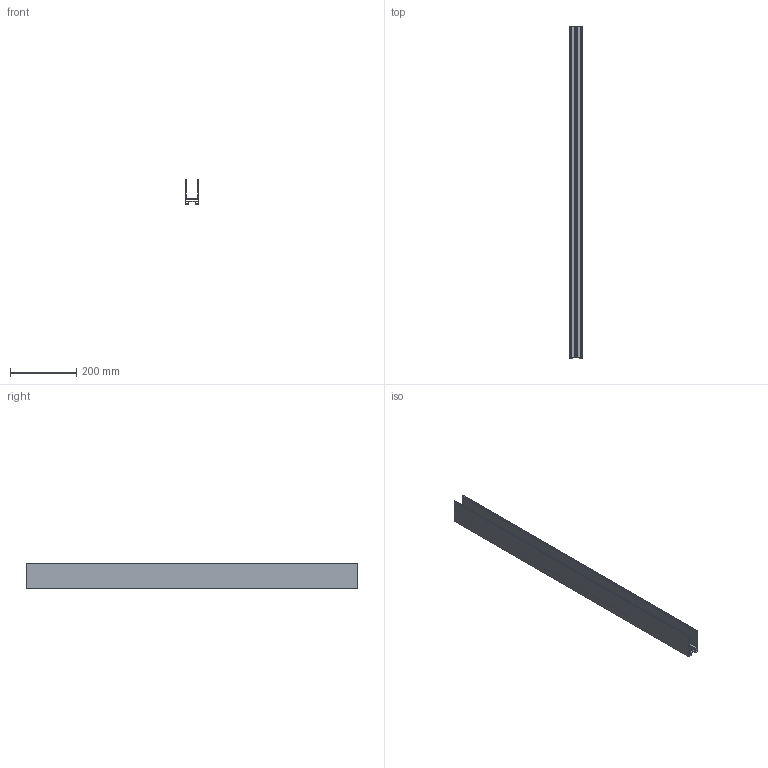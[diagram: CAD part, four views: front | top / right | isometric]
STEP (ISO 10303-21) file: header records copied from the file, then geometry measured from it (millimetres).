
FILE_DESCRIPTION(/* description */ (''),/* implementation_level */ '2;1');
FILE_NAME(/* name */ 'C:\Users\FrancoSartori\Documents\FARO\01_En Proceso\0000_2022\000_PRO\00_NESO\01_RFA_3D_Trabajo\TRACK_SURFACE_1M.stp',/* time_stamp */ '2022-07-19T14:23:54+02:00',/* author */ ('FrancoSartori'),/* organization */ (''),/* preprocessor_version */ 'ST-DEVELOPER v19',/* originating_system */ 'AutoCAD Mechanical',/* authorisation */ '');
FILE_SCHEMA (('AUTOMOTIVE_DESIGN { 1 0 10303 214 3 1 1 }'));
Length unit declared in the file: millimetre
Products named in the file (2): Product; Track pendant_surface - LAMP-510849-Export
Assembly tree (1 placements, depth 2):
  Product
    Track pendant_surface - LAMP-510849-Export
Bounding box: 39.4 x 1000 x 76 mm (x, y, z)
Volume: 558176.8 mm3; surface area: 531228.3 mm2
Topology: 7 solids, 7 shells, 103 faces, 267 edges, 178 vertices
Faces by surface type: plane 101, cylinder 2
Entity records: 3136 total; most frequent: CARTESIAN_POINT 551, ORIENTED_EDGE 534, DIRECTION 483, EDGE_CURVE 267, LINE 263, VECTOR 263, VERTEX_POINT 178, AXIS2_PLACEMENT_3D 110
